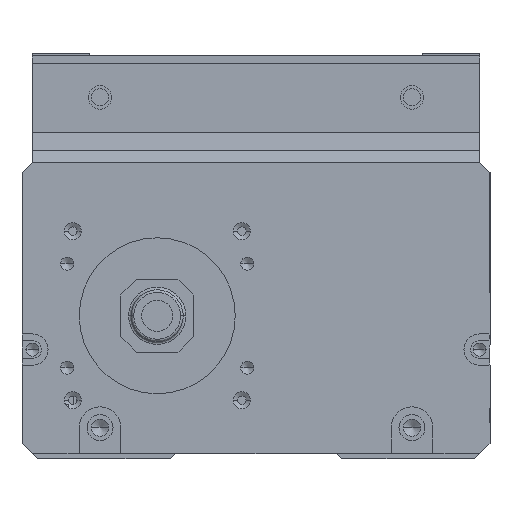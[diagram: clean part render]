
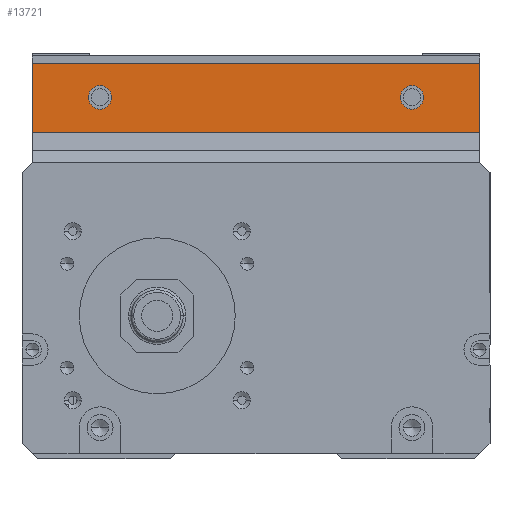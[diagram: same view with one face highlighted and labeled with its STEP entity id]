
A CAD part, front view. The second image highlights one B-rep face of the part: STEP entity #13721.
In plain terms, the highlighted planar face has unit normal (0, -1, 0).
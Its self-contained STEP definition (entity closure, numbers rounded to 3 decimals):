
#253 = DIRECTION ( 'NONE',  ( -1., 0., 0. ) ) ;
#732 = CARTESIAN_POINT ( 'NONE',  ( 43., 78., -1.5 ) ) ;
#808 = AXIS2_PLACEMENT_3D ( 'NONE', #15283, #15280, #15203 ) ;
#983 = CARTESIAN_POINT ( 'NONE',  ( -30., 78., -5.75 ) ) ;
#1425 = VERTEX_POINT ( 'NONE', #7524 ) ;
#1538 = FACE_OUTER_BOUND ( 'NONE', #13937, .T. ) ;
#1740 = DIRECTION ( 'NONE',  ( -1., 0., 0. ) ) ;
#1771 = CARTESIAN_POINT ( 'NONE',  ( 45., 78., -14.788 ) ) ;
#1926 = CIRCLE ( 'NONE', #15011, 2.25 ) ;
#2044 = ORIENTED_EDGE ( 'NONE', *, *, #15739, .T. ) ;
#2423 = LINE ( 'NONE', #15067, #7774 ) ;
#2906 = EDGE_CURVE ( 'NONE', #8427, #14965, #14469, .T. ) ;
#3289 = VECTOR ( 'NONE', #8476, 1000. ) ;
#3520 = CIRCLE ( 'NONE', #5014, 2.25 ) ;
#3694 = VERTEX_POINT ( 'NONE', #983 ) ;
#3852 = VERTEX_POINT ( 'NONE', #15409 ) ;
#4052 = VERTEX_POINT ( 'NONE', #11231 ) ;
#4226 = ORIENTED_EDGE ( 'NONE', *, *, #8620, .T. ) ;
#5001 = LINE ( 'NONE', #9628, #10354 ) ;
#5014 = AXIS2_PLACEMENT_3D ( 'NONE', #10999, #10996, #10966 ) ;
#6323 = EDGE_CURVE ( 'NONE', #1425, #9774, #13966, .T. ) ;
#6837 = FACE_BOUND ( 'NONE', #7770, .T. ) ;
#7261 = EDGE_CURVE ( 'NONE', #15981, #3852, #5001, .T. ) ;
#7424 = ORIENTED_EDGE ( 'NONE', *, *, #7261, .T. ) ;
#7524 = CARTESIAN_POINT ( 'NONE',  ( 43., 78., -14.788 ) ) ;
#7770 = EDGE_LOOP ( 'NONE', ( #4226, #14994 ) ) ;
#7774 = VECTOR ( 'NONE', #253, 1000. ) ;
#8192 = ORIENTED_EDGE ( 'NONE', *, *, #9631, .F. ) ;
#8427 = VERTEX_POINT ( 'NONE', #13892 ) ;
#8476 = DIRECTION ( 'NONE',  ( 0., 0., 1. ) ) ;
#8547 = CARTESIAN_POINT ( 'NONE',  ( 43., 78., -1.5 ) ) ;
#8620 = EDGE_CURVE ( 'NONE', #4052, #3694, #1926, .T. ) ;
#8631 = DIRECTION ( 'NONE',  ( 0., 0., -1. ) ) ;
#8634 = DIRECTION ( 'NONE',  ( 0., 1., 0. ) ) ;
#8665 = CARTESIAN_POINT ( 'NONE',  ( 30., 78., -8. ) ) ;
#9064 = ORIENTED_EDGE ( 'NONE', *, *, #2906, .T. ) ;
#9299 = DIRECTION ( 'NONE',  ( 0., 0., -1. ) ) ;
#9628 = CARTESIAN_POINT ( 'NONE',  ( -43., 78., -1.5 ) ) ;
#9631 = EDGE_CURVE ( 'NONE', #1425, #3852, #9686, .T. ) ;
#9686 = LINE ( 'NONE', #1771, #15060 ) ;
#9774 = VERTEX_POINT ( 'NONE', #732 ) ;
#10228 = AXIS2_PLACEMENT_3D ( 'NONE', #8665, #8634, #8631 ) ;
#10354 = VECTOR ( 'NONE', #9299, 1000. ) ;
#10537 = DIRECTION ( 'NONE',  ( 0., 0., -1. ) ) ;
#10644 = DIRECTION ( 'NONE',  ( 0., -1., 0. ) ) ;
#10740 = CARTESIAN_POINT ( 'NONE',  ( 45., 78., -1.5 ) ) ;
#10847 = PLANE ( 'NONE',  #12935 ) ;
#10966 = DIRECTION ( 'NONE',  ( 0., 0., 1. ) ) ;
#10996 = DIRECTION ( 'NONE',  ( 0., 1., 0. ) ) ;
#10999 = CARTESIAN_POINT ( 'NONE',  ( -30., 78., -8. ) ) ;
#11231 = CARTESIAN_POINT ( 'NONE',  ( -30., 78., -10.25 ) ) ;
#12104 = EDGE_CURVE ( 'NONE', #3694, #4052, #3520, .T. ) ;
#12215 = FACE_BOUND ( 'NONE', #13552, .T. ) ;
#12275 = EDGE_CURVE ( 'NONE', #14965, #8427, #14806, .T. ) ;
#12351 = CARTESIAN_POINT ( 'NONE',  ( -43., 78., -1.5 ) ) ;
#12415 = DIRECTION ( 'NONE',  ( 0., 0., 1. ) ) ;
#12454 = DIRECTION ( 'NONE',  ( 0., 1., 0. ) ) ;
#12480 = CARTESIAN_POINT ( 'NONE',  ( 30., 78., -5.75 ) ) ;
#12489 = CARTESIAN_POINT ( 'NONE',  ( -30., 78., -8. ) ) ;
#12935 = AXIS2_PLACEMENT_3D ( 'NONE', #10740, #10644, #10537 ) ;
#13552 = EDGE_LOOP ( 'NONE', ( #9064, #15314 ) ) ;
#13609 = ORIENTED_EDGE ( 'NONE', *, *, #6323, .T. ) ;
#13721 = ADVANCED_FACE ( 'NONE', ( #6837, #12215, #1538 ), #10847, .T. ) ;
#13892 = CARTESIAN_POINT ( 'NONE',  ( 30., 78., -10.25 ) ) ;
#13937 = EDGE_LOOP ( 'NONE', ( #8192, #13609, #2044, #7424 ) ) ;
#13966 = LINE ( 'NONE', #8547, #3289 ) ;
#14469 = CIRCLE ( 'NONE', #808, 2.25 ) ;
#14806 = CIRCLE ( 'NONE', #10228, 2.25 ) ;
#14965 = VERTEX_POINT ( 'NONE', #12480 ) ;
#14994 = ORIENTED_EDGE ( 'NONE', *, *, #12104, .T. ) ;
#15011 = AXIS2_PLACEMENT_3D ( 'NONE', #12489, #12454, #12415 ) ;
#15060 = VECTOR ( 'NONE', #1740, 1000. ) ;
#15067 = CARTESIAN_POINT ( 'NONE',  ( 45., 78., -1.5 ) ) ;
#15203 = DIRECTION ( 'NONE',  ( 0., 0., -1. ) ) ;
#15280 = DIRECTION ( 'NONE',  ( 0., 1., 0. ) ) ;
#15283 = CARTESIAN_POINT ( 'NONE',  ( 30., 78., -8. ) ) ;
#15314 = ORIENTED_EDGE ( 'NONE', *, *, #12275, .T. ) ;
#15409 = CARTESIAN_POINT ( 'NONE',  ( -43., 78., -14.788 ) ) ;
#15739 = EDGE_CURVE ( 'NONE', #9774, #15981, #2423, .T. ) ;
#15981 = VERTEX_POINT ( 'NONE', #12351 ) ;
